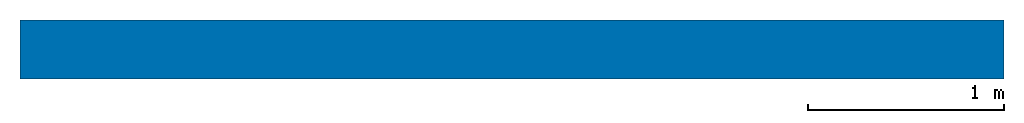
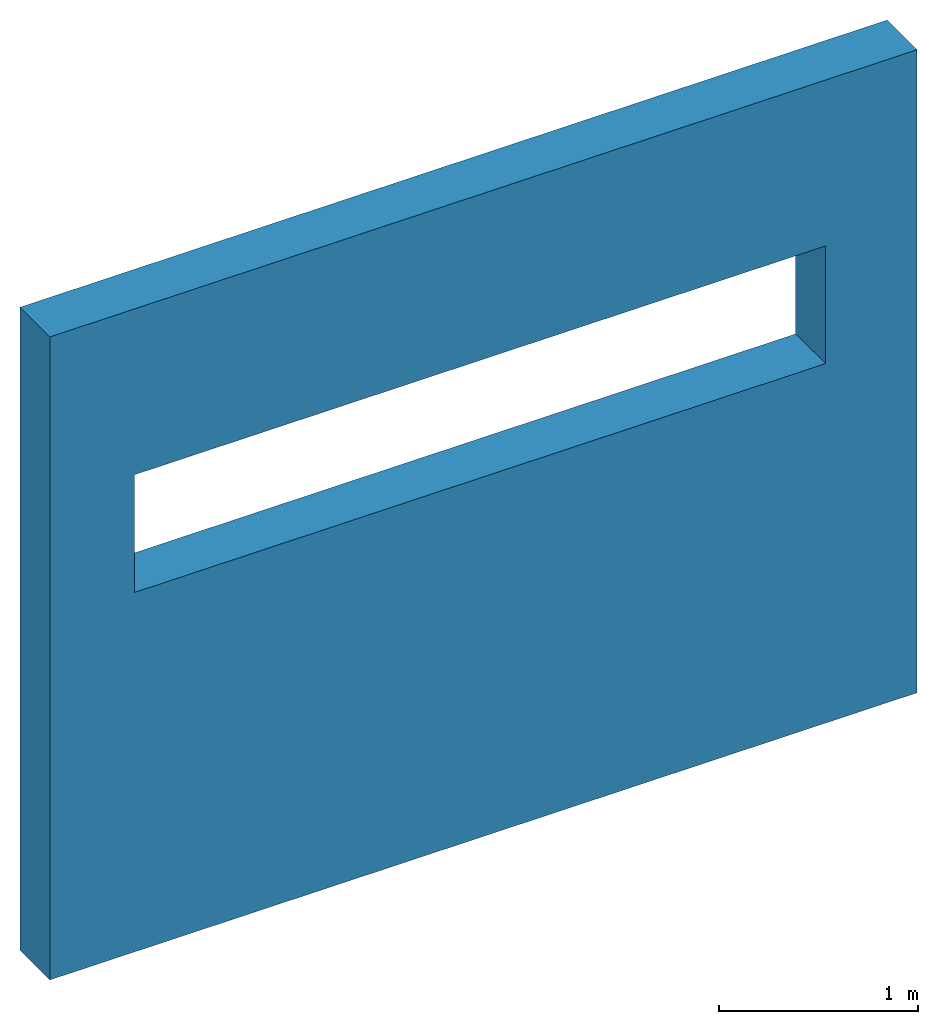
# One storey: 1 wall.
"""IFC2X3 building model written with IfcOpenShell, lengths in metres."""

import ifcopenshell
import ifcopenshell.guid

model = None  # the IFC model being written
_history = None  # IfcOwnerHistory: only IFC2X3 demands one
_inside = {}  # id of a spatial element -> (the spatial element, [elements in it])
_under = {}  # id of a project, library or spatial element -> (it, [spatial elements below it])
_declared = {}  # id of a project -> (the project, [libraries it declares])
_typed = {}  # id of a type object -> (the type object, [elements of that type])
_made_of = {}  # id of a material, layer set ... -> (it, [elements and type objects made of it])


def new_model(schema):
    """Start an empty IFC model of exactly this schema.

    Asked for "IFC4X3", IfcOpenShell would pick the latest addendum, in which some entities
    have other attributes; the version numbers below select the first issue.
    IFC2X3 requires an IfcOwnerHistory on every rooted entity: one is made here for all.
    """
    global model, _history
    if schema == "IFC4X3":
        model = ifcopenshell.file(schema_version=(4, 3, 0, 0))
    else:
        model = ifcopenshell.file(schema=schema)
    _inside.clear()
    _under.clear()
    _declared.clear()
    _typed.clear()
    _made_of.clear()
    _history = None
    if model.schema == "IFC2X3":
        org = make("IfcOrganization", Name="unknown")
        user = make(
            "IfcPersonAndOrganization",
            ThePerson=make("IfcPerson", FamilyName="unknown"),
            TheOrganization=org,
        )
        app = make(
            "IfcApplication",
            ApplicationDeveloper=org,
            Version="unknown",
            ApplicationFullName="unknown",
            ApplicationIdentifier="unknown",
        )
        _history = make(
            "IfcOwnerHistory",
            OwningUser=user,
            OwningApplication=app,
            ChangeAction="ADDED",
            CreationDate=0,
        )
    return model


def make(cls, **values):
    """One entity of the class cls with the attributes given. An attribute that is None is left unset."""
    return model.create_entity(
        cls, **{name: value for name, value in values.items() if value is not None}
    )


def entity(cls, *values):
    """Any entity or typed value of the class cls, its attributes in the order of the schema. None: left unset."""
    e = model.create_entity(cls)
    for i, value in enumerate(values):
        if value is not None:
            e[i] = value
    return e


def rooted(cls, **values):
    """An entity with a GlobalId (a new one), such as an element, a storey or a relation."""
    return make(cls, GlobalId=ifcopenshell.guid.new(), OwnerHistory=_history, **values)


def si_unit(unit_type, name, prefix=None):
    """IfcSIUnit, for example si_unit("LENGTHUNIT", "METRE", prefix="MILLI")."""
    return make("IfcSIUnit", UnitType=unit_type, Prefix=prefix, Name=name)


def converted_unit(unit_type, name, factor, base, dimensions=None, offset=None):
    """IfcConversionBasedUnit, such as the inch: factor (a typed value) times the base unit."""
    return make(
        "IfcConversionBasedUnit"
        if offset is None
        else "IfcConversionBasedUnitWithOffset",
        ConversionOffset=offset,
        Dimensions=None
        if dimensions is None
        else entity("IfcDimensionalExponents", *dimensions),
        UnitType=unit_type,
        Name=name,
        ConversionFactor=make(
            "IfcMeasureWithUnit", ValueComponent=factor, UnitComponent=base
        ),
    )


def derived_unit(unit_type, elements):
    """IfcDerivedUnit: a product of units, each with its exponent."""
    return make(
        "IfcDerivedUnit",
        Elements=[
            make("IfcDerivedUnitElement", Unit=unit, Exponent=power)
            for unit, power in elements
        ],
        UnitType=unit_type,
    )


def assignment(units):
    """IfcUnitAssignment: the units of a project."""
    return None if units is None else make("IfcUnitAssignment", Units=units)


def point(xyz):
    """IfcCartesianPoint."""
    return None if xyz is None else make("IfcCartesianPoint", Coordinates=xyz)


def direction(xyz):
    """IfcDirection."""
    return None if xyz is None else make("IfcDirection", DirectionRatios=xyz)


def frame(location, z_axis=None, x_axis=None):
    """IfcAxis2Placement3D, a coordinate frame: its origin and axes. An axis left out is left unset."""
    return make(
        "IfcAxis2Placement3D",
        Location=point(location),
        Axis=direction(z_axis),
        RefDirection=direction(x_axis),
    )


def origin():
    """The frame at (0, 0, 0) with its axes left unset."""
    return frame((0.0, 0.0, 0.0))


def origin_with_axes():
    """The frame at (0, 0, 0) with the z axis (0, 0, 1) and the x axis (1, 0, 0) written out."""
    return frame((0.0, 0.0, 0.0), z_axis=(0.0, 0.0, 1.0), x_axis=(1.0, 0.0, 0.0))


def place(relative_to, where):
    """IfcLocalPlacement: puts the frame where relative to a parent placement (None: the world)."""
    return make(
        "IfcLocalPlacement", PlacementRelTo=relative_to, RelativePlacement=where
    )


def context(
    kind, dimensions, precision=None, world=None, true_north=None, identifier=None
):
    """IfcGeometricRepresentationContext, for example the 3D "Model" context."""
    return make(
        "IfcGeometricRepresentationContext",
        ContextIdentifier=identifier,
        ContextType=kind,
        CoordinateSpaceDimension=dimensions,
        Precision=precision,
        WorldCoordinateSystem=world,
        TrueNorth=true_north,
    )


def subcontext(parent, identifier, kind, view, scale=None):
    """IfcGeometricRepresentationSubContext, for example "Body" below "Model"."""
    return make(
        "IfcGeometricRepresentationSubContext",
        ContextIdentifier=identifier,
        ContextType=kind,
        ParentContext=parent,
        TargetScale=scale,
        TargetView=view,
    )


def project(units=None, contexts=None):
    """IfcProject with its units and contexts."""
    return rooted(
        "IfcProject",
        Name="project",
        RepresentationContexts=contexts,
        UnitsInContext=assignment(units),
    )


def spatial(cls, under=None, at=None, **own):
    """A site, building, storey or space (cls), placed at a placement, below another one or the project."""
    s = rooted(cls, ObjectPlacement=at, **own)
    if under is not None:
        _under.setdefault(under.id(), (under, []))[1].append(s)
    return s


def faces_of(points, faces, orient=None, outer=None):
    """IfcFace entities. A face is a list of loops; a loop is a list of indices into points, from 0.

    orient and outer hold one flag for each loop. By default every Orientation is true, the
    first loop of a face is its IfcFaceOuterBound and the others are IfcFaceBound.
    """
    made = []
    for i, loops in enumerate(faces):
        bounds = []
        for j, loop in enumerate(loops):
            is_outer = j == 0 if outer is None else outer[i][j]
            bounds.append(
                make(
                    "IfcFaceOuterBound" if is_outer else "IfcFaceBound",
                    Bound=make("IfcPolyLoop", Polygon=[points[k] for k in loop]),
                    Orientation=True if orient is None else orient[i][j],
                )
            )
        made.append(make("IfcFace", Bounds=bounds))
    return made


def faceted_brep(points, faces, orient=None, outer=None, voids=None):
    """IfcFacetedBrep: a solid bounded by flat faces; with voids (closed shells), ...WithVoids."""
    shared = [point(p) for p in points]
    hull = make("IfcClosedShell", CfsFaces=faces_of(shared, faces, orient, outer))
    if voids is None:
        return make("IfcFacetedBrep", Outer=hull)
    return make(
        "IfcFacetedBrepWithVoids",
        Outer=hull,
        Voids=[
            make(cls, CfsFaces=faces_of(shared, fs, o, b)) for cls, fs, o, b in voids
        ],
    )


def shape(context_of_items, identifier, shape_type, items):
    """IfcShapeRepresentation: the items that make up one representation, for example the "Body"."""
    return make(
        "IfcShapeRepresentation",
        ContextOfItems=context_of_items,
        RepresentationIdentifier=identifier,
        RepresentationType=shape_type,
        Items=items,
    )


def material(Name=None, Category=None):
    """IfcMaterial."""
    return make("IfcMaterial", Name=Name, Category=Category)


def layer(
    of_material, thickness, ventilated=None, Name=None, Category=None, Priority=None
):
    """IfcMaterialLayer: one layer of a wall or slab, of a material (None: an air gap)."""
    return make(
        "IfcMaterialLayer",
        Material=of_material,
        LayerThickness=thickness,
        IsVentilated=ventilated,
        Name=Name,
        Category=Category,
        Priority=Priority,
    )


def layer_set(layers, Name=None):
    """IfcMaterialLayerSet."""
    return make("IfcMaterialLayerSet", MaterialLayers=layers, LayerSetName=Name)


def made_of(thing, what):
    """Note that an element or type object is made of a material, layer set ...; save() writes the relation."""
    if what is not None:
        _made_of.setdefault(what.id(), (what, []))[1].append(thing)
    return thing


def type_object(cls, material=None, **own):
    """A type object (cls), such as IfcWallType, which elements share."""
    return made_of(rooted(cls, **own), material)


def element(
    cls,
    number,
    at=None,
    inside=None,
    cuts=None,
    type_object=None,
    material=None,
    context=None,
    identifier="Body",
    shape_type=None,
    held_by="IfcProductDefinitionShape",
    body=None,
    shapes=None,
    **own,
):
    """One element of the class cls, such as IfcWall. Its Tag is "e" and its number.

    at: its placement. inside: the storey or other place that contains it. cuts: it is an
    opening in that element (IfcRelVoidsElement). A single representation is given by context,
    identifier, shape_type and body (its items); several are given by shapes. held_by: the class
    of the entity that holds the representations. save() writes the other relations.
    """
    e = rooted(cls, Tag="e%d" % number, ObjectPlacement=at, **own)
    if body is not None:
        shapes = [shape(context, identifier, shape_type, body)]
    if shapes is not None:
        e.Representation = make(held_by, Representations=shapes)
    if inside is not None:
        _inside.setdefault(inside.id(), (inside, []))[1].append(e)
    if cuts is not None:
        rooted(
            "IfcRelVoidsElement", RelatingBuildingElement=cuts, RelatedOpeningElement=e
        )
    if type_object is not None:
        _typed.setdefault(type_object.id(), (type_object, []))[1].append(e)
    return made_of(e, material)


def aggregate(whole, parts):
    """IfcRelAggregates: a whole, such as a stair, and the parts it consists of."""
    return rooted("IfcRelAggregates", RelatingObject=whole, RelatedObjects=parts)


def save(model, path):
    """Write the relations noted so far, then the file.

    IfcRelAggregates (storeys below a building ...), IfcRelContainedInSpatialStructure (elements
    in a storey), IfcRelDefinesByType, IfcRelAssociatesMaterial and IfcRelDeclares: one each for
    every whole, place, type object, material and project.
    """
    for whole, parts in _under.values():
        aggregate(whole, parts)
    for where, things in _inside.values():
        rooted(
            "IfcRelContainedInSpatialStructure",
            RelatedElements=things,
            RelatingStructure=where,
        )
    for kind, things in _typed.values():
        rooted("IfcRelDefinesByType", RelatedObjects=things, RelatingType=kind)
    for what, things in _made_of.values():
        rooted("IfcRelAssociatesMaterial", RelatedObjects=things, RelatingMaterial=what)
    for by, libraries in _declared.values():
        rooted("IfcRelDeclares", RelatingContext=by, RelatedDefinitions=libraries)
    model.write(path)


model = new_model("IFC2X3")

# Units and contexts
model_context = context("Model", 3, precision=1e-05, world=origin(), true_north=direction((6.12303176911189e-17, 1.0)))
plan_context = context("Plan", 3, precision=1e-05, world=origin_with_axes())
body_context = subcontext(model_context, "Body", "Model", "MODEL_VIEW")
ifc_project = project(units=[converted_unit("PLANEANGLEUNIT", "DEGREE", entity("IfcPositiveLengthMeasure", 0.0174532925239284), si_unit("PLANEANGLEUNIT", "RADIAN"), dimensions=[0, 0, 0, 0, 0, 0, 0]), si_unit("AREAUNIT", "SQUARE_METRE"), si_unit("LENGTHUNIT", "METRE"), si_unit("MASSUNIT", "GRAM", prefix="KILO"), si_unit("POWERUNIT", "WATT"), si_unit("PRESSUREUNIT", "PASCAL"), si_unit("FORCEUNIT", "NEWTON", prefix="KILO"), si_unit("ELECTRICVOLTAGEUNIT", "VOLT"), si_unit("ELECTRICCURRENTUNIT", "AMPERE"), si_unit("THERMODYNAMICTEMPERATUREUNIT", "DEGREE_CELSIUS"), si_unit("TIMEUNIT", "SECOND"), si_unit("VOLUMEUNIT", "CUBIC_METRE"), derived_unit("LINEARVELOCITYUNIT", [(si_unit("LENGTHUNIT", "METRE"), 1), (si_unit("TIMEUNIT", "SECOND"), -1)]), derived_unit("VOLUMETRICFLOWRATEUNIT", [(si_unit("VOLUMEUNIT", "CUBIC_METRE"), 1), (si_unit("TIMEUNIT", "SECOND"), -1)]), derived_unit("THERMALTRANSMITTANCEUNIT", [(si_unit("POWERUNIT", "WATT"), 1), (si_unit("THERMODYNAMICTEMPERATUREUNIT", "KELVIN"), -1), (si_unit("AREAUNIT", "SQUARE_METRE"), -1)]), derived_unit("SOUNDPRESSUREUNIT", [(si_unit("PRESSUREUNIT", "PASCAL"), 1)])], contexts=[model_context, plan_context])

# Site, building, storey
site_placement = place(None, origin_with_axes())
site = spatial("IfcSite", under=ifc_project, at=site_placement, Name="Default", CompositionType="ELEMENT")
building_placement = place(site_placement, origin_with_axes())
building = spatial("IfcBuilding", under=site, at=building_placement, CompositionType="ELEMENT")
storey_placement = place(building_placement, origin_with_axes())
storey = spatial("IfcBuildingStorey", under=building, at=storey_placement, Name="P00", CompositionType="ELEMENT", Elevation=0.0)

# Wall
ifc_material = material(Name="ARCH-Gris")
ifc_layer = layer(ifc_material, 0.3)
ifc_layer_set = layer_set([ifc_layer], Name="Basic Wall:P294-FAC-030")
wall_type = type_object("IfcWallType", Name="Basic Wall:P294-FAC-030", PredefinedType="STANDARD", material=ifc_layer_set)
wall_placement = place(storey_placement, frame((20.0, -14.89, 0.0), z_axis=(0.0, 0.0, 1.0), x_axis=(1.0, 0.0, 0.0)))
element("IfcWall", 1, at=wall_placement, inside=storey, type_object=wall_type, Name="Basic Wall:P294-FAC-030", ObjectType="Basic Wall:P294-FAC-030", context=body_context, shape_type="Brep", body=[
    faceted_brep([(5.02000000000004, -0.15, 3.93500000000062), (5.02000000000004, 0.150000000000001, 3.93500000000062), (5.02000000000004, 0.150000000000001, 0.0), (5.02000000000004, -0.15, 0.0), (5.32907051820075e-15, 0.150000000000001, 3.93500000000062), (5.32907051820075e-15, 0.150000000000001, 0.0), (0.48999999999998, 0.149999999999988, 2.92), (4.48999999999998, 0.149999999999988, 2.92), (4.48999999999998, 0.149999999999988, 2.2), (0.48999999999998, 0.149999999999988, 2.2), (5.32907051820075e-15, -0.15, 3.93500000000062), (5.32907051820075e-15, -0.15, 0.0), (4.48999999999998, -0.150000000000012, 2.92), (0.48999999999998, -0.150000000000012, 2.92), (0.48999999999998, -0.150000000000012, 2.2), (4.48999999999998, -0.150000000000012, 2.2)], [[[0, 1, 2, 3]], [[1, 4, 5, 2], [6, 7, 8, 9]], [[4, 10, 11, 5]], [[10, 0, 3, 11], [12, 13, 14, 15]], [[3, 2, 5, 11]], [[8, 15, 14, 9]], [[7, 12, 15, 8]], [[6, 13, 12, 7]], [[9, 14, 13, 6]], [[10, 4, 1, 0]]], orient=[[False], [False, False], [False], [False, False], [False], [False], [False], [False], [False], [False]]),
])

save(model, "model.ifc")
